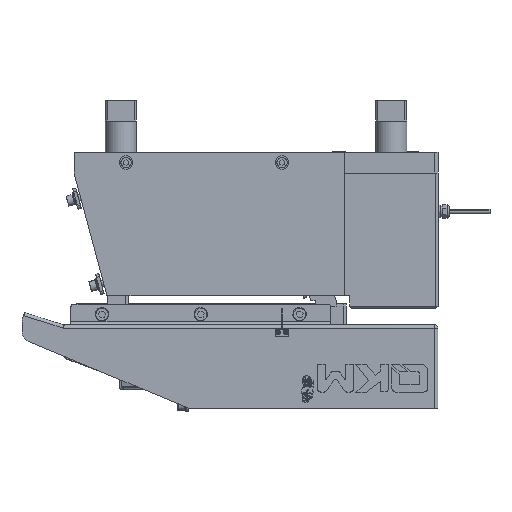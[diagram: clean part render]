
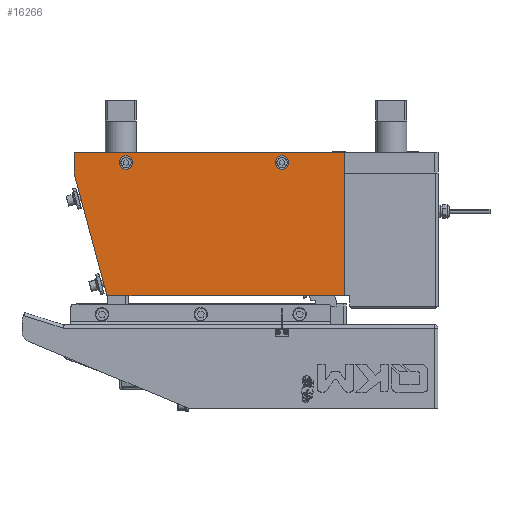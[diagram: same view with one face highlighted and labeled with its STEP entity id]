
A CAD part, front view. The second image highlights one B-rep face of the part: STEP entity #16266.
In plain terms, the highlighted planar face has unit normal (0, -1, 0).
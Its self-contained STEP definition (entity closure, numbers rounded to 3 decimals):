
#172 = EDGE_CURVE ( 'NONE', #22714, #8682, #55459, .T. ) ;
#2424 = EDGE_CURVE ( 'NONE', #50676, #78418, #16193, .T. ) ;
#2774 = DIRECTION ( 'NONE',  ( 0.259, 0., -0.966 ) ) ;
#3005 = CARTESIAN_POINT ( 'NONE',  ( -143.382, -76.5, -128. ) ) ;
#4986 = ORIENTED_EDGE ( 'NONE', *, *, #79264, .T. ) ;
#5578 = EDGE_LOOP ( 'NONE', ( #4986, #74226 ) ) ;
#6027 = CIRCLE ( 'NONE', #6351, 2.75 ) ;
#6351 = AXIS2_PLACEMENT_3D ( 'NONE', #7306, #7196, #6922 ) ;
#6922 = DIRECTION ( 'NONE',  ( 1., 0., 0. ) ) ;
#7196 = DIRECTION ( 'NONE',  ( 0., 1., 0. ) ) ;
#7306 = CARTESIAN_POINT ( 'NONE',  ( -125., -76.5, 0. ) ) ;
#8682 = VERTEX_POINT ( 'NONE', #36535 ) ;
#10076 = ORIENTED_EDGE ( 'NONE', *, *, #172, .T. ) ;
#12092 = CARTESIAN_POINT ( 'NONE',  ( -125., -76.5, 0. ) ) ;
#12318 = EDGE_CURVE ( 'NONE', #58538, #77398, #6027, .T. ) ;
#12411 = ORIENTED_EDGE ( 'NONE', *, *, #63412, .F. ) ;
#13315 = CARTESIAN_POINT ( 'NONE',  ( -127.75, -76.5, 0. ) ) ;
#13851 = LINE ( 'NONE', #29527, #29939 ) ;
#15455 = FACE_BOUND ( 'NONE', #5578, .T. ) ;
#16193 = LINE ( 'NONE', #60975, #53023 ) ;
#16266 = ADVANCED_FACE ( 'NONE', ( #19747, #15455, #71059 ), #18124, .T. ) ;
#17639 = DIRECTION ( 'NONE',  ( -1., 0., 0. ) ) ;
#18124 = PLANE ( 'NONE',  #51689 ) ;
#18407 = CARTESIAN_POINT ( 'NONE',  ( -45., -76.5, -59. ) ) ;
#18776 = CIRCLE ( 'NONE', #39168, 2.75 ) ;
#18966 = DIRECTION ( 'NONE',  ( 1., 0., 0. ) ) ;
#19747 = FACE_OUTER_BOUND ( 'NONE', #62215, .T. ) ;
#20338 = VERTEX_POINT ( 'NONE', #24434 ) ;
#20356 = AXIS2_PLACEMENT_3D ( 'NONE', #37469, #37446, #37077 ) ;
#21744 = DIRECTION ( 'NONE',  ( 0., -1., 0. ) ) ;
#22714 = VERTEX_POINT ( 'NONE', #35604 ) ;
#24434 = CARTESIAN_POINT ( 'NONE',  ( -175., -76.5, -10. ) ) ;
#25674 = VERTEX_POINT ( 'NONE', #77870 ) ;
#26932 = LINE ( 'NONE', #52563, #64107 ) ;
#27127 = EDGE_CURVE ( 'NONE', #20338, #50676, #70712, .T. ) ;
#29527 = CARTESIAN_POINT ( 'NONE',  ( -175., -76.5, -128. ) ) ;
#29939 = VECTOR ( 'NONE', #78512, 1000. ) ;
#30698 = LINE ( 'NONE', #3005, #79991 ) ;
#30724 = ORIENTED_EDGE ( 'NONE', *, *, #27127, .F. ) ;
#32309 = EDGE_CURVE ( 'NONE', #8682, #22714, #67997, .T. ) ;
#35604 = CARTESIAN_POINT ( 'NONE',  ( 22.25, -76.5, 0. ) ) ;
#36535 = CARTESIAN_POINT ( 'NONE',  ( 27.75, -76.5, 0. ) ) ;
#37077 = DIRECTION ( 'NONE',  ( 1., 0., 0. ) ) ;
#37446 = DIRECTION ( 'NONE',  ( 0., 1., 0. ) ) ;
#37469 = CARTESIAN_POINT ( 'NONE',  ( 25., -76.5, 0. ) ) ;
#39168 = AXIS2_PLACEMENT_3D ( 'NONE', #12092, #60641, #18966 ) ;
#39806 = EDGE_CURVE ( 'NONE', #20338, #55001, #30698, .T. ) ;
#41448 = ORIENTED_EDGE ( 'NONE', *, *, #75240, .F. ) ;
#48410 = CARTESIAN_POINT ( 'NONE',  ( -143.382, -76.5, -128. ) ) ;
#50676 = VERTEX_POINT ( 'NONE', #56603 ) ;
#51689 = AXIS2_PLACEMENT_3D ( 'NONE', #18407, #21744, #17639 ) ;
#51905 = VECTOR ( 'NONE', #83401, 1000. ) ;
#52200 = ORIENTED_EDGE ( 'NONE', *, *, #32309, .T. ) ;
#52563 = CARTESIAN_POINT ( 'NONE',  ( 85., -76.5, 10. ) ) ;
#53023 = VECTOR ( 'NONE', #60897, 1000. ) ;
#54590 = ORIENTED_EDGE ( 'NONE', *, *, #39806, .T. ) ;
#55001 = VERTEX_POINT ( 'NONE', #48410 ) ;
#55459 = CIRCLE ( 'NONE', #67831, 2.75 ) ;
#56603 = CARTESIAN_POINT ( 'NONE',  ( -175., -76.5, 10. ) ) ;
#58538 = VERTEX_POINT ( 'NONE', #13315 ) ;
#60641 = DIRECTION ( 'NONE',  ( 0., 1., 0. ) ) ;
#60897 = DIRECTION ( 'NONE',  ( 1., 0., 0. ) ) ;
#60975 = CARTESIAN_POINT ( 'NONE',  ( -175., -76.5, 10. ) ) ;
#62215 = EDGE_LOOP ( 'NONE', ( #54590, #12411, #41448, #73420, #30724 ) ) ;
#63412 = EDGE_CURVE ( 'NONE', #25674, #55001, #13851, .T. ) ;
#64107 = VECTOR ( 'NONE', #87613, 1000. ) ;
#67831 = AXIS2_PLACEMENT_3D ( 'NONE', #73946, #73875, #73775 ) ;
#67997 = CIRCLE ( 'NONE', #20356, 2.75 ) ;
#68049 = EDGE_LOOP ( 'NONE', ( #52200, #10076 ) ) ;
#70712 = LINE ( 'NONE', #86787, #51905 ) ;
#71059 = FACE_BOUND ( 'NONE', #68049, .T. ) ;
#72181 = CARTESIAN_POINT ( 'NONE',  ( 85., -76.5, 10. ) ) ;
#73420 = ORIENTED_EDGE ( 'NONE', *, *, #2424, .F. ) ;
#73592 = CARTESIAN_POINT ( 'NONE',  ( -122.25, -76.5, 0. ) ) ;
#73775 = DIRECTION ( 'NONE',  ( 1., 0., 0. ) ) ;
#73875 = DIRECTION ( 'NONE',  ( 0., 1., 0. ) ) ;
#73946 = CARTESIAN_POINT ( 'NONE',  ( 25., -76.5, 0. ) ) ;
#74226 = ORIENTED_EDGE ( 'NONE', *, *, #12318, .T. ) ;
#75240 = EDGE_CURVE ( 'NONE', #78418, #25674, #26932, .T. ) ;
#77398 = VERTEX_POINT ( 'NONE', #73592 ) ;
#77870 = CARTESIAN_POINT ( 'NONE',  ( 85., -76.5, -128. ) ) ;
#78418 = VERTEX_POINT ( 'NONE', #72181 ) ;
#78512 = DIRECTION ( 'NONE',  ( -1., 0., 0. ) ) ;
#79264 = EDGE_CURVE ( 'NONE', #77398, #58538, #18776, .T. ) ;
#79991 = VECTOR ( 'NONE', #2774, 1000. ) ;
#83401 = DIRECTION ( 'NONE',  ( 0., 0., 1. ) ) ;
#86787 = CARTESIAN_POINT ( 'NONE',  ( -175., -76.5, 10. ) ) ;
#87613 = DIRECTION ( 'NONE',  ( 0., 0., -1. ) ) ;
